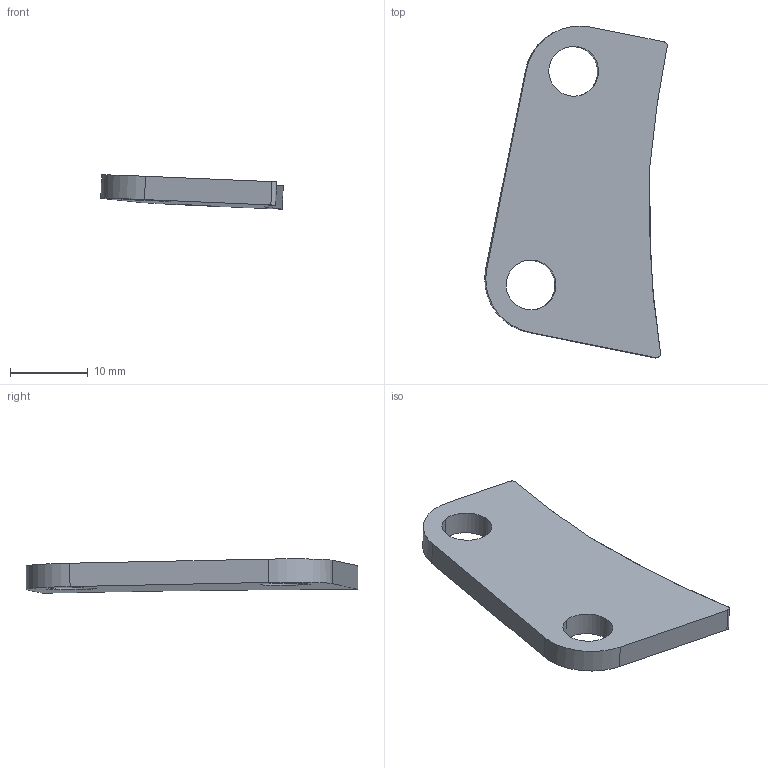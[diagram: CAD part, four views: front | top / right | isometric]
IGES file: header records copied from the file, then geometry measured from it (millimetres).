
Start section: START RECORD GO HERE.
Global section: file name: 20M_EN_05004 (chape regulateur).igs; native system: 44HIBM CATIA IGES - CATIA Version 5 Release 19; preprocessor: CATIA Version 5 Release 19 ; author: Martin Kawczynski; organization: DESKTOP-UDLM1FC; date: 20200115.113404; units: millimetre
Bounding box: 23.45 x 42.66 x 4.41 mm (x, y, z)
Surface area: 1848.6 mm2 (no closed solid volume)
Topology: 0 solids, 0 shells, 15 faces, 78 edges, 78 vertices
Faces by surface type: revolution 8, plane 5, extrusion 2
